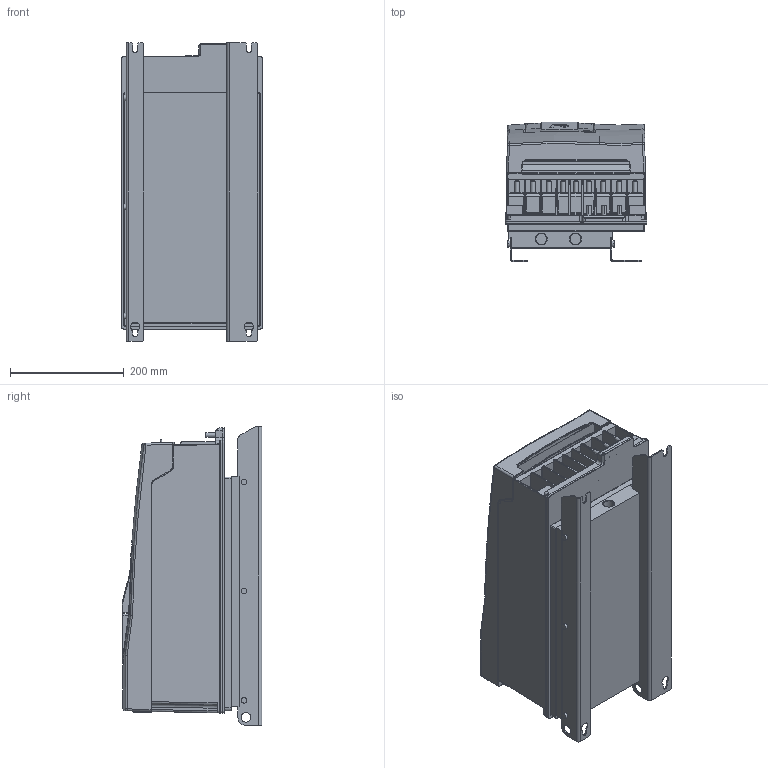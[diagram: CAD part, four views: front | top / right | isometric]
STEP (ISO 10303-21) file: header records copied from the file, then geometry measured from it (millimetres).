
FILE_DESCRIPTION (( 'STEP AP214' ), '1' );
FILE_NAME ('F6-6TK0-P150.STEP', '2024-06-10T06:42:25', ( '' ), ( '' ), 'SwSTEP 2.0', 'SolidWorks 2022', '' );
FILE_SCHEMA (( 'AUTOMOTIVE_DESIGN' ));
Length unit declared in the file: millimetre
Products named in the file (13): 10059764_000_Blindabdeckung (Kundenmodell); F6-6TK0-P150; Kundenmodell^10059764_000; Kundenmodell^10051076_000_Kundenmodell mit Geberbuchsen; 10027052_000_Gehäusebaugruppe F6-6 (Kundenmodell); 10027377_000_Kundenmodell; 10077991_000_Kundenmodell; Kundenmodell^10061793_000; 10051076_000_Kundenmodell; Kundenmodell^10027052_000; Kundemmodell^10027377_000; 10061793_000_Deckelbaugruppe F6-6 (Kundenmodell); Kundenmodell^10077991_000
Assembly tree (12 placements, depth 4):
  F6-6TK0-P150
    10077991_000_Kundenmodell
      10027377_000_Kundenmodell
        Kundemmodell^10027377_000
      Kundenmodell^10077991_000
    10027052_000_Gehäusebaugruppe F6-6 (Kundenmodell)
      10061793_000_Deckelbaugruppe F6-6 (Kundenmodell)
        Kundenmodell^10061793_000
      Kundenmodell^10027052_000
    10051076_000_Kundenmodell
      10059764_000_Blindabdeckung (Kundenmodell)
        Kundenmodell^10059764_000
      Kundenmodell^10051076_000_Kundenmodell mit Geberbuchsen
Bounding box: 249 x 245.4 x 525 mm (x, y, z)
Volume: 21184845.4 mm3; surface area: 1397682 mm2
Topology: 16 solids, 36 shells, 3018 faces, 7488 edges, 4453 vertices
Faces by surface type: cylinder 1077, plane 969, bspline 581, torus 153, sphere 133, cone 105
Entity records: 101138 total; most frequent: CARTESIAN_POINT 34200, ORIENTED_EDGE 14652, DIRECTION 13016, EDGE_CURVE 7326, AXIS2_PLACEMENT_3D 4728, VERTEX_POINT 4451, LINE 3560, VECTOR 3560
